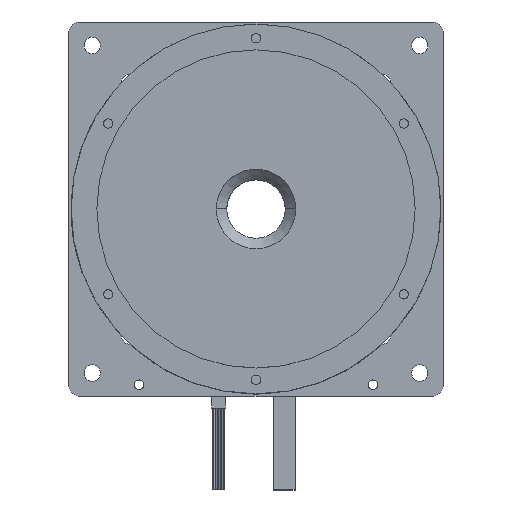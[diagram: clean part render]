
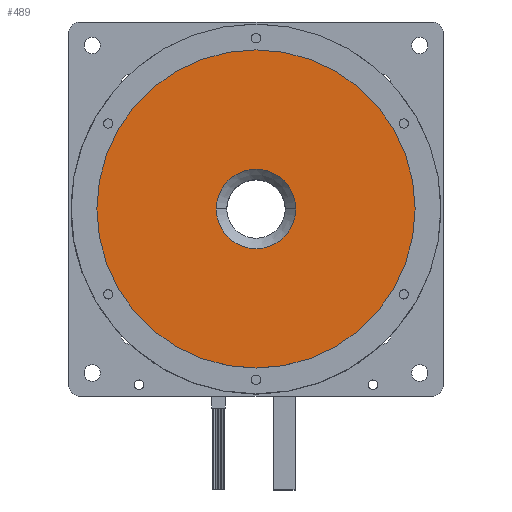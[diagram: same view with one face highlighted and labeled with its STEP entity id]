
A CAD part, top view. The second image highlights one B-rep face of the part: STEP entity #489.
In plain terms, the highlighted planar face has unit normal (0, 0, 1).
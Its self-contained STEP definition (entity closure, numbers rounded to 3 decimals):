
#474 = VERTEX_POINT ( 'NONE', #2315 ) ;
#475 = EDGE_CURVE ( 'NONE', #476, #474, #2317, .T. ) ;
#476 = VERTEX_POINT ( 'NONE', #2401 ) ;
#484 = ORIENTED_EDGE ( 'NONE', *, *, #505, .F. ) ;
#486 = ORIENTED_EDGE ( 'NONE', *, *, #475, .T. ) ;
#487 = EDGE_CURVE ( 'NONE', #474, #476, #2388, .T. ) ;
#488 = ORIENTED_EDGE ( 'NONE', *, *, #487, .T. ) ;
#489 = ADVANCED_FACE ( 'NONE', ( #2402, #2392 ), #2314, .T. ) ;
#491 = EDGE_LOOP ( 'NONE', ( #486, #488 ) ) ;
#505 = EDGE_CURVE ( 'NONE', #703, #943, #2693, .T. ) ;
#536 = EDGE_LOOP ( 'NONE', ( #538, #484 ) ) ;
#538 = ORIENTED_EDGE ( 'NONE', *, *, #700, .F. ) ;
#700 = EDGE_CURVE ( 'NONE', #943, #703, #3177, .T. ) ;
#703 = VERTEX_POINT ( 'NONE', #3164 ) ;
#943 = VERTEX_POINT ( 'NONE', #3586 ) ;
#2314 = PLANE ( 'NONE',  #2403 ) ;
#2315 = CARTESIAN_POINT ( 'NONE',  ( -17., 0., 65. ) ) ;
#2317 = CIRCLE ( 'NONE', #2325, 17. ) ;
#2324 = CARTESIAN_POINT ( 'NONE',  ( 0., 0., 65. ) ) ;
#2325 = AXIS2_PLACEMENT_3D ( 'NONE', #2399, #2398, #2397 ) ;
#2378 = CARTESIAN_POINT ( 'NONE',  ( 0., -68., 65. ) ) ;
#2380 = DIRECTION ( 'NONE',  ( 1., 0., 0. ) ) ;
#2381 = DIRECTION ( 'NONE',  ( 0., 0., -1. ) ) ;
#2383 = DIRECTION ( 'NONE',  ( 1., 0., 0. ) ) ;
#2384 = DIRECTION ( 'NONE',  ( 0., 0., 1. ) ) ;
#2388 = CIRCLE ( 'NONE', #2394, 17. ) ;
#2392 = FACE_OUTER_BOUND ( 'NONE', #536, .T. ) ;
#2394 = AXIS2_PLACEMENT_3D ( 'NONE', #2324, #2381, #2380 ) ;
#2397 = DIRECTION ( 'NONE',  ( 1., 0., 0. ) ) ;
#2398 = DIRECTION ( 'NONE',  ( 0., 0., -1. ) ) ;
#2399 = CARTESIAN_POINT ( 'NONE',  ( 0., 0., 65. ) ) ;
#2401 = CARTESIAN_POINT ( 'NONE',  ( 17., 0., 65. ) ) ;
#2402 = FACE_BOUND ( 'NONE', #491, .T. ) ;
#2403 = AXIS2_PLACEMENT_3D ( 'NONE', #2378, #2384, #2383 ) ;
#2693 = CIRCLE ( 'NONE', #2747, 68. ) ;
#2741 = CARTESIAN_POINT ( 'NONE',  ( 0., 0., 65. ) ) ;
#2745 = DIRECTION ( 'NONE',  ( -1., 0., 0. ) ) ;
#2746 = DIRECTION ( 'NONE',  ( 0., 0., -1. ) ) ;
#2747 = AXIS2_PLACEMENT_3D ( 'NONE', #2741, #2746, #2745 ) ;
#3164 = CARTESIAN_POINT ( 'NONE',  ( 68., 0., 65. ) ) ;
#3166 = DIRECTION ( 'NONE',  ( -1., 0., 0. ) ) ;
#3167 = DIRECTION ( 'NONE',  ( 0., 0., -1. ) ) ;
#3168 = CARTESIAN_POINT ( 'NONE',  ( 0., 0., 65. ) ) ;
#3169 = AXIS2_PLACEMENT_3D ( 'NONE', #3168, #3167, #3166 ) ;
#3177 = CIRCLE ( 'NONE', #3169, 68. ) ;
#3586 = CARTESIAN_POINT ( 'NONE',  ( -68., 0., 65. ) ) ;
